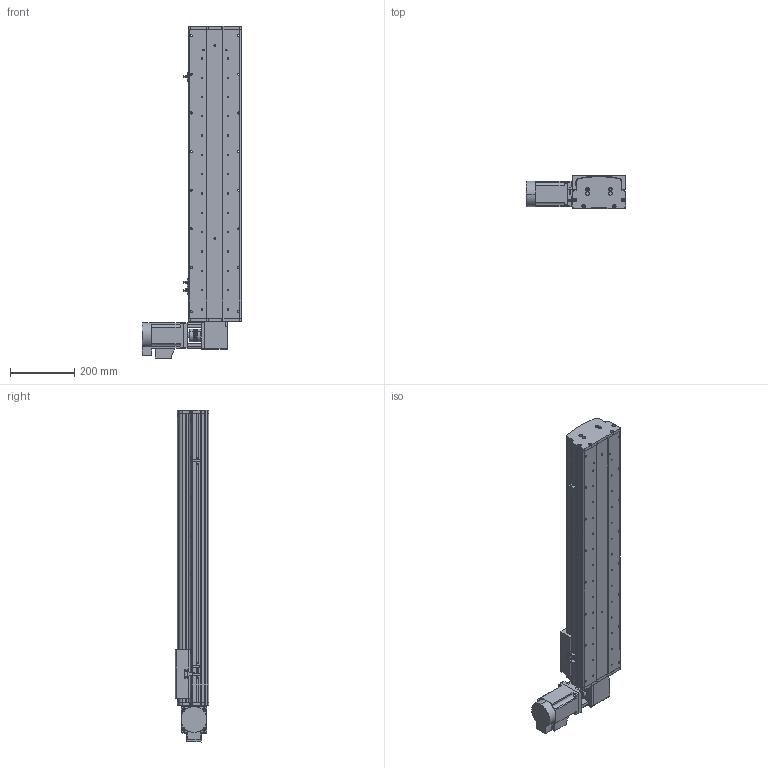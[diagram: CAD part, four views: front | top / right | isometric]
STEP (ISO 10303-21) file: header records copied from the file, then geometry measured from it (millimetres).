
FILE_DESCRIPTION (( 'STEP AP214' ), '1' );
FILE_NAME ('KSD165B-S650-MRT-CM .STEP', '2017-10-17T01:20:43', ( '微软用户' ), ( '微软中国' ), 'SwSTEP 2.0', 'SolidWorks 2014', '' );
FILE_SCHEMA (( 'AUTOMOTIVE_DESIGN' ));
Length unit declared in the file: millimetre
Products named in the file (16): KSD165模组-同步带滑动座-最新版; KSD165B-S650-MRT-CM  ; 165宽马达安装板同步带左-改; KSD165模组-同步带防尘盖1-650行程-最新版; KSD165模组同步带底板-650行程-最新; 拸秶雄ん750W侜督萇儂; 165宽安装板同步带带电机座750W; C39ㄜ1419WP; U倰嫖萇假蚾璃; U倰嫖萇EEㄜSX672; 覜茼え68遵圉猾敕; KSD165模组-同步带-防撞垫2; KSD165模组同步带-防撞垫1; KSD165耀郪-ヶ傷啣1-肮祭湍; KSD165模组-后端板1-同步带; 130宽马达安装板1-带电机座750W（1）
Assembly tree (19 placements, depth 2):
  KSD165B-S650-MRT-CM  
    KSD165模组-同步带滑动座-最新版
    130宽马达安装板1-带电机座750W（1）
    KSD165模组-后端板1-同步带
    KSD165耀郪-ヶ傷啣1-肮祭湍
    KSD165模组同步带-防撞垫1
    KSD165模组-同步带-防撞垫2
    覜茼え68遵圉猾敕
    U倰嫖萇EEㄜSX672  x3
    U倰嫖萇假蚾璃  x3
    C39ㄜ1419WP
    165宽安装板同步带带电机座750W
    拸秶雄ん750W侜督萇儂
    KSD165模组同步带底板-650行程-最新
    KSD165模组-同步带防尘盖1-650行程-最新版
    165宽马达安装板同步带左-改
Bounding box: 307.5 x 104 x 1031.06 mm (x, y, z)
Volume: 6306114.6 mm3; surface area: 1410091.9 mm2
Topology: 20 solids, 21 shells, 1464 faces, 4062 edges, 2629 vertices
Faces by surface type: cylinder 793, plane 577, cone 94
Entity records: 46235 total; most frequent: CARTESIAN_POINT 9691, DIRECTION 7204, ORIENTED_EDGE 6776, EDGE_CURVE 3388, AXIS2_PLACEMENT_3D 2734, VERTEX_POINT 2221, LINE 1736, VECTOR 1736
